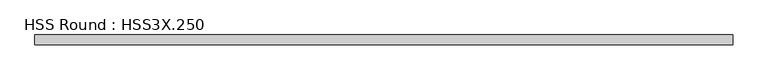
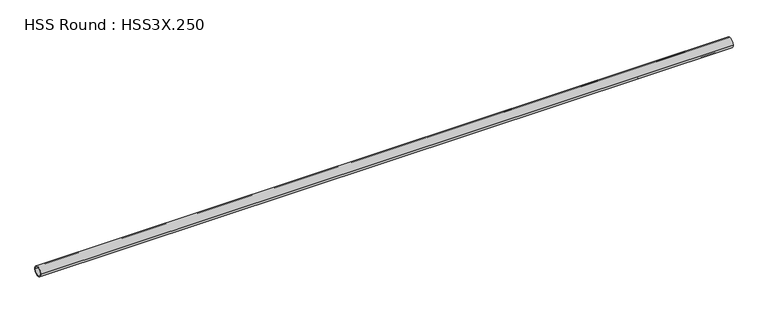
"""IFC4 building model written with IfcOpenShell, lengths in millimetres: member geometry, HSS Round : HSS3X.250."""

from ifc_helpers import new_model, si_unit, point, frame, origin, origin_2d, place, context, project, spatial, circle_curve, trimmed, segment, composite_curve, outline, extrude, source, transform, mapped, element, save


def hss_round_hss3x_250_21325331(model_context):
    return source(origin(), model_context, "Body", "SweptSolid", [
        extrude(outline(composite_curve([segment(trimmed(circle_curve(origin_2d(), 38.1), [point((-38.1, 0.0))], [point((38.1, 0.0))], False, "CARTESIAN"), True, "CONTINUOUS"), segment(trimmed(circle_curve(origin_2d(), 38.1), [point((38.1, 0.0))], [point((-38.1, 0.0))], False, "CARTESIAN"), True, "CONTINUOUS")], self_intersect=False), holes=[composite_curve([segment(trimmed(circle_curve(origin_2d(), 31.75), [point((31.75, 0.0))], [point((-31.75, 0.0))], True, "CARTESIAN"), True, "CONTINUOUS"), segment(trimmed(circle_curve(origin_2d(), 31.75), [point((-31.75, 0.0))], [point((31.75, 0.0))], True, "CARTESIAN"), True, "CONTINUOUS")], self_intersect=False)]), frame((-2570.8056077, 0.0, 0.0), z_axis=(1.0, 0.0, 0.0), x_axis=(0.0, 1.0, 0.0)), (0.0, 0.0, 1.0), 5317.4077616),
    ])


if __name__ == "__main__":
    model = new_model("IFC4")
    model_context = context("Model", 3, world=origin())
    ifc_project = project(units=[si_unit("LENGTHUNIT", "METRE", prefix="MILLI")], contexts=[model_context])
    site = spatial("IfcSite", under=ifc_project)
    building = spatial("IfcBuilding", under=site)
    placement = place(None, origin())
    hss_round_hss3x_250_shape = hss_round_hss3x_250_21325331(model_context)
    element("IfcMember", 1, ObjectType="HSS Round : HSS3X.250", at=placement, inside=building, context=model_context, shape_type="MappedRepresentation", body=[
        mapped(hss_round_hss3x_250_shape, transform((0.0, 0.0, 0.0), x_axis=(1.0, 0.0, 0.0), y_axis=(0.0, 1.0, 0.0), z_axis=(0.0, 0.0, 1.0))),
    ])
    save(model, "model.ifc")
